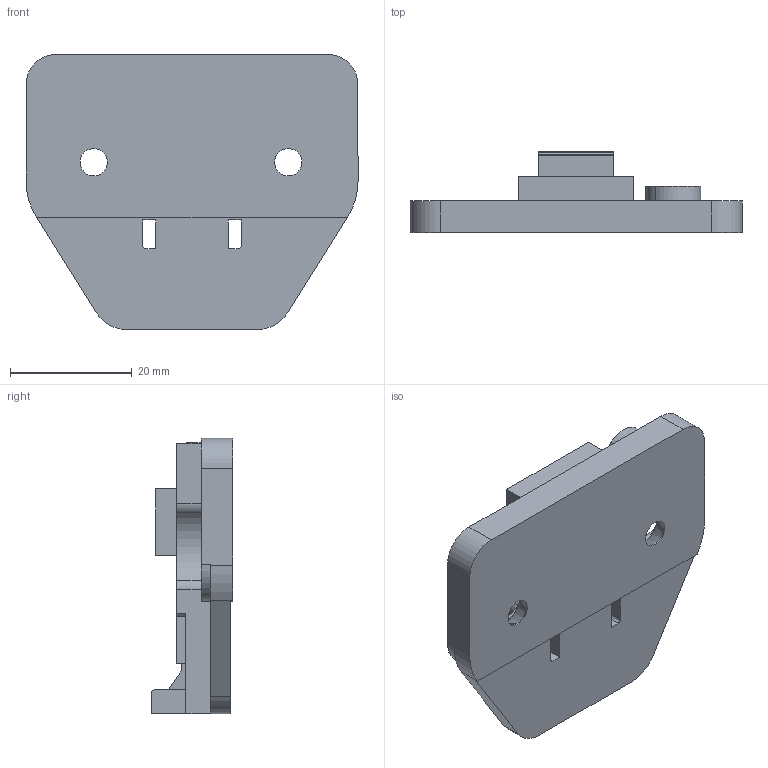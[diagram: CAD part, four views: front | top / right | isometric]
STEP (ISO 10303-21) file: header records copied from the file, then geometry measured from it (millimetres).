
FILE_DESCRIPTION (( 'STEP AP203' ), '1' );
FILE_NAME ('89T40TQ-DTC3D.STEP', '2021-04-13T01:08:41', ( '' ), ( '' ), 'SwSTEP 2.0', 'SolidWorks 2018', '' );
FILE_SCHEMA (( 'CONFIG_CONTROL_DESIGN' ));
Length unit declared in the file: millimetre
Products named in the file (1): 89T40TQ-DTC3D
Bounding box: 54.6 x 13.4 x 45.3 mm (x, y, z)
Volume: 13551.3 mm3; surface area: 6471.2 mm2
Topology: 1 solids, 1 shells, 106 faces, 301 edges, 199 vertices
Faces by surface type: plane 62, cylinder 33, torus 4, cone 4, bspline 3
Entity records: 3601 total; most frequent: CARTESIAN_POINT 697, ORIENTED_EDGE 602, DIRECTION 586, EDGE_CURVE 301, VECTOR 206, LINE 206, VERTEX_POINT 199, AXIS2_PLACEMENT_3D 190
